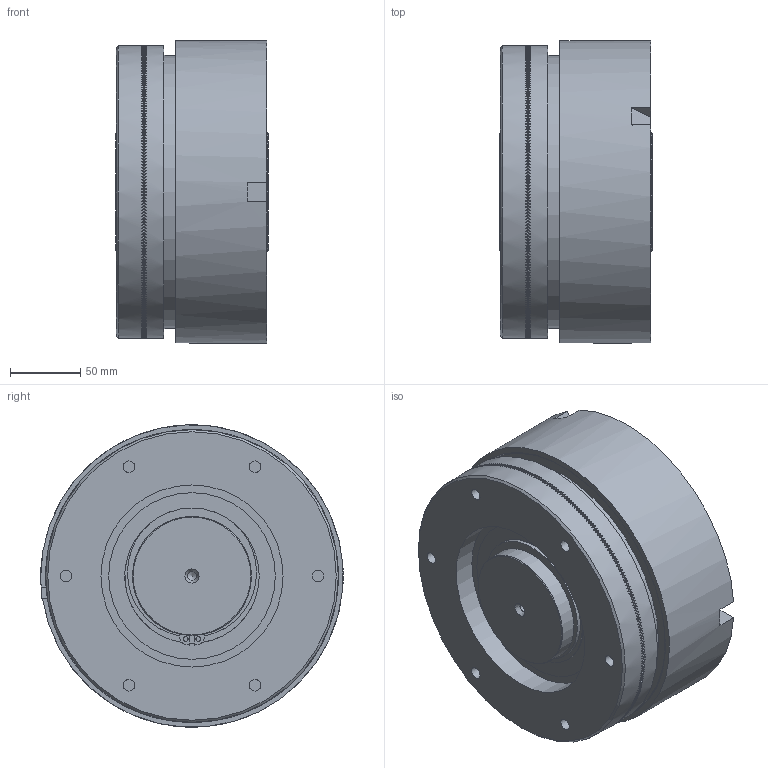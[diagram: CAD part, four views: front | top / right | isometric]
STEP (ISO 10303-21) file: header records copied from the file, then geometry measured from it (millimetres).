
FILE_DESCRIPTION(/* description */ (''),/* implementation_level */ '2;1');
FILE_NAME(/* name */ 'X:\INVENTOR\DISEGNI\03_Friz_Oleod_Pneum_Cil_Stat\03_25 DP\03_25_07_01 DP-07\03_25_07_01 DP07@STEP.stp',/* time_stamp */ '2023-02-02T08:29:52+01:00',/* author */ ('alessio'),/* organization */ (''),/* preprocessor_version */ 'ST-DEVELOPER v18.1',/* originating_system */ 'Autodesk Inventor 2021',/* authorisation */ '');
FILE_SCHEMA (('AUTOMOTIVE_DESIGN { 1 0 10303 214 3 1 1 }'));
Products named in the file (1): 03_25_07_01 DP07
Bounding box: 109 x 216 x 215.89 mm (x, y, z)
Volume: 3046757 mm3; surface area: 522451.9 mm2
Topology: 3 solids, 13 shells, 3334 faces, 10069 edges, 6697 vertices
Faces by surface type: plane 2512, cylinder 470, torus 293, sphere 37, cone 22
Full cylindrical faces by diameter (mm): 3.242 x1, 3.5 x4, 6.3 x2, 6.5 x1, 7.5 x5, 8.376 x6, 11.445 x1, 81.5 x2, 85 x6, 96 x1, 99.4 x3, 115.6 x3, 119 x1, 120 x3, 130 x5, 132 x1, 139.2 x2, 140 x4, 149.5 x2, 160.8 x2, 166 x1, 170 x2, 174 x1, 178 x1, 180 x2, 181 x1, 194 x2, 195 x1, 196 x1, 200 x2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
Entity records: 129885 total; most frequent: CARTESIAN_POINT 31339, DIRECTION 22216, ORIENTED_EDGE 19982, EDGE_CURVE 9991, AXIS2_PLACEMENT_3D 9599, VERTEX_POINT 6697, ELLIPSE 3607, EDGE_LOOP 3471
